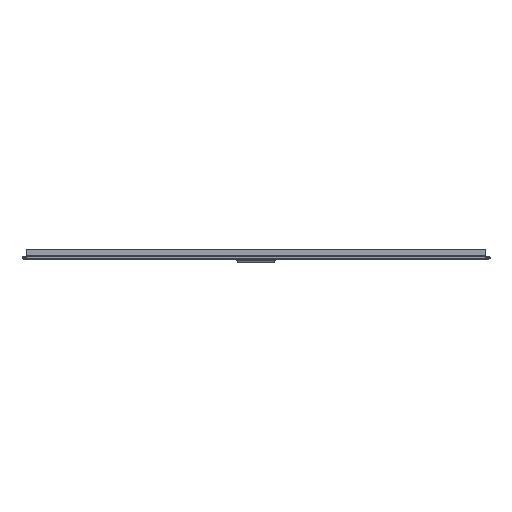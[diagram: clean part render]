
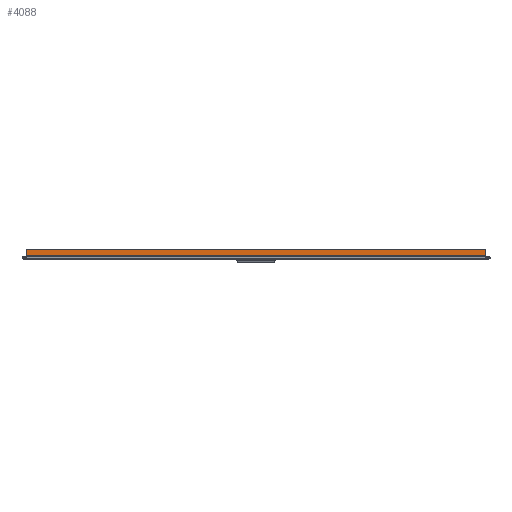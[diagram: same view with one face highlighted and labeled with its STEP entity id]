
A CAD part, left-side view. The second image highlights one B-rep face of the part: STEP entity #4088.
In plain terms, the highlighted planar face has unit normal (-1, 0, 0).
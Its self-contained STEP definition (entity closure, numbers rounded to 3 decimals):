
#133 = EDGE_LOOP ( 'NONE', ( #2144, #2145, #2143, #2146 ) ) ;
#1077 = VERTEX_POINT ( 'NONE', #2598 ) ;
#1079 = VERTEX_POINT ( 'NONE', #2600 ) ;
#1240 = VERTEX_POINT ( 'NONE', #2761 ) ;
#1241 = VERTEX_POINT ( 'NONE', #2762 ) ;
#2143 = ORIENTED_EDGE ( 'NONE', *, *, #5320, .F. ) ;
#2144 = ORIENTED_EDGE ( 'NONE', *, *, #4507, .T. ) ;
#2145 = ORIENTED_EDGE ( 'NONE', *, *, #5319, .F. ) ;
#2146 = ORIENTED_EDGE ( 'NONE', *, *, #5317, .T. ) ;
#2598 = CARTESIAN_POINT ( 'NONE',  ( -324.6, 956.75, -12. ) ) ;
#2600 = CARTESIAN_POINT ( 'NONE',  ( -324.6, -956.75, -12. ) ) ;
#2761 = CARTESIAN_POINT ( 'NONE',  ( -324.6, 956.75, 29.5 ) ) ;
#2762 = CARTESIAN_POINT ( 'NONE',  ( -324.6, -956.75, 29.5 ) ) ;
#3206 = PLANE ( 'NONE',  #8248 ) ;
#3207 = CARTESIAN_POINT ( 'NONE',  ( -324.6, -956.75, 29.5 ) ) ;
#3208 = DIRECTION ( 'NONE',  ( 1., 0., 0. ) ) ;
#3209 = DIRECTION ( 'NONE',  ( 0., 0., -1. ) ) ;
#4088 = ADVANCED_FACE ( 'NONE', ( #8255 ), #3206, .F. ) ;
#4507 = EDGE_CURVE ( 'NONE', #1077, #1079, #6349, .T. ) ;
#5317 = EDGE_CURVE ( 'NONE', #1240, #1077, #7578, .T. ) ;
#5319 = EDGE_CURVE ( 'NONE', #1241, #1079, #7584, .T. ) ;
#5320 = EDGE_CURVE ( 'NONE', #1240, #1241, #7587, .T. ) ;
#6349 = LINE ( 'NONE', #6350, #7070 ) ;
#6350 = CARTESIAN_POINT ( 'NONE',  ( -324.6, -956.75, -12. ) ) ;
#6351 = DIRECTION ( 'NONE',  ( 0., -1., 0. ) ) ;
#7070 = VECTOR ( 'NONE', #6351, 1000. ) ;
#7578 = LINE ( 'NONE', #7579, #8047 ) ;
#7579 = CARTESIAN_POINT ( 'NONE',  ( -324.6, 956.75, 29.5 ) ) ;
#7580 = DIRECTION ( 'NONE',  ( 0., 0., -1. ) ) ;
#7584 = LINE ( 'NONE', #7585, #8049 ) ;
#7585 = CARTESIAN_POINT ( 'NONE',  ( -324.6, -956.75, 29.5 ) ) ;
#7586 = DIRECTION ( 'NONE',  ( 0., 0., -1. ) ) ;
#7587 = LINE ( 'NONE', #7588, #8050 ) ;
#7588 = CARTESIAN_POINT ( 'NONE',  ( -324.6, -956.75, 29.5 ) ) ;
#7589 = DIRECTION ( 'NONE',  ( 0., -1., 0. ) ) ;
#8047 = VECTOR ( 'NONE', #7580, 1000. ) ;
#8049 = VECTOR ( 'NONE', #7586, 1000. ) ;
#8050 = VECTOR ( 'NONE', #7589, 1000. ) ;
#8248 = AXIS2_PLACEMENT_3D ( 'NONE', #3207, #3208, #3209 ) ;
#8255 = FACE_OUTER_BOUND ( 'NONE', #133, .T. ) ;
